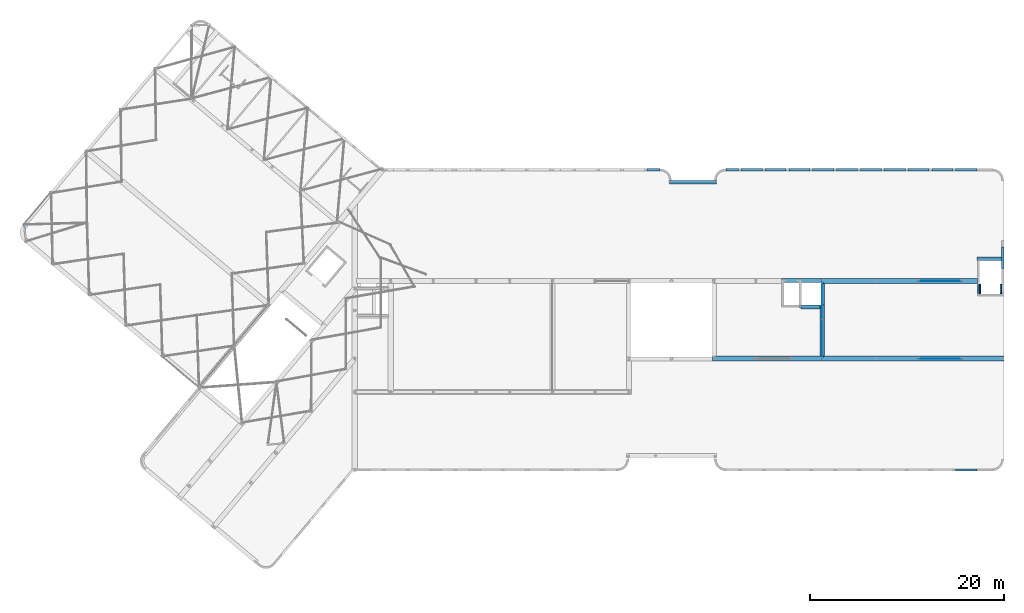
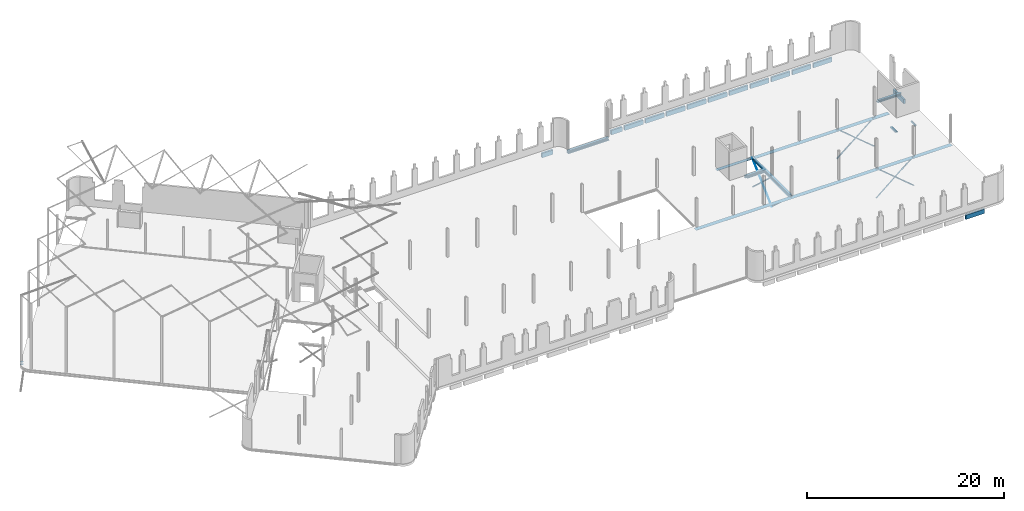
# One storey, part 19 of 25: 37 beams.
"""IFC2X3 building model written with IfcOpenShell, lengths in millimetres."""

from ifc_helpers import new_model, entity, si_unit, converted_unit, derived_unit, direction, frame, frame_2d, origin, origin_2d_with_axis, place, context, subcontext, project, spatial, polyline, circle_curve, parameter, trimmed, segment, composite_curve, rectangle, i_section, outline, extrude, material, type_object, element, save


model = new_model("IFC2X3")

# Units and contexts
model_context = context("Model", 3, precision=0.01, world=origin(), true_north=direction((6.123031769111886e-17, 1.0)))
body_context = subcontext(model_context, "Body", "Model", "MODEL_VIEW")
ifc_project = project(units=[si_unit("LENGTHUNIT", "METRE", prefix="MILLI"), si_unit("AREAUNIT", "SQUARE_METRE"), si_unit("VOLUMEUNIT", "CUBIC_METRE"), derived_unit("MASSDENSITYUNIT", [(si_unit("MASSUNIT", "GRAM", prefix="KILO"), 1), (si_unit("LENGTHUNIT", "METRE"), -3)]), si_unit("MASSUNIT", "GRAM", prefix="KILO"), converted_unit("PLANEANGLEUNIT", "DEGREE", entity("IfcPlaneAngleMeasure", 0.017453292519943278), si_unit("PLANEANGLEUNIT", "RADIAN"), dimensions=[0, 0, 0, 0, 0, 0, 0])], contexts=[model_context])

# Site, building, storey
site_placement = place(None, origin())
site = spatial("IfcSite", under=ifc_project, at=site_placement, Name="Default", CompositionType="ELEMENT")
building_placement = place(site_placement, origin())
building = spatial("IfcBuilding", under=site, at=building_placement, Name="AT constructie", CompositionType="ELEMENT")
storey_placement = place(building_placement, frame((0.0, 0.0, 3864.0)))
storey = spatial("IfcBuildingStorey", under=building, at=storey_placement, Name="01 eerste verdieping", CompositionType="ELEMENT", Elevation=3864.0)

# Beams
ifc_material_1 = material(Name="f2_beton_prefab_gen")
beam_type_1 = type_object("IfcBeamType", Name="balk vierkant_gen_214x544 pbl", PredefinedType="NOTDEFINED")
for number, where in (
    (1, (83681.87463111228, 42871.04350852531, 0.0)),
    (2, (81221.87463111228, 42871.04350852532, 0.0)),
    (3, (86141.8746311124, 42871.0435085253, 0.0)),
):
    element("IfcBeam", number, at=place(storey_placement, frame(where)), inside=storey, type_object=beam_type_1, material=ifc_material_1, Name="NLRS_28_SF_LIB_balk vierkant prefab_gen_AT:balk vierkant_gen_214x544 pbl", ObjectType="NLRS_28_SF_LIB_balk vierkant prefab_gen_AT:balk vierkant_gen_214x544 pbl", context=body_context, shape_type="SweptSolid", body=[
        extrude(rectangle(XDim=544.0000000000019, YDim=213.99999999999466, at=frame_2d((0.0, 4.334310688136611e-12), x_axis=(1.0, 0.0))), frame((-190.0, -107.0, -642.0), z_axis=(1.0, 0.0, 0.0), x_axis=(0.0, 0.0, -1.0)), (0.0, 0.0, 1.0), 2190.0000000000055),
    ])
beam_1_placement = place(storey_placement, frame((88601.87463111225, 42871.04350852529, 0.0)))
element("IfcBeam", 4, at=beam_1_placement, inside=storey, type_object=beam_type_1, material=ifc_material_1, Name="NLRS_28_SF_LIB_balk vierkant prefab_gen_AT:balk vierkant_gen_214x544 pbl", ObjectType="NLRS_28_SF_LIB_balk vierkant prefab_gen_AT:balk vierkant_gen_214x544 pbl", context=body_context, shape_type="SweptSolid", body=[
    extrude(rectangle(XDim=544.0000000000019, YDim=213.99999999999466, at=frame_2d((0.0, -4.334310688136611e-12), x_axis=(1.0, 0.0))), frame((-190.0, -107.0, -642.0), z_axis=(1.0, 0.0, 0.0), x_axis=(0.0, 0.0, -1.0)), (0.0, 0.0, 1.0), 2190.0000000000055),
])
for number, where in (
    (5, (91061.87463111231, 42871.04350852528, 0.0)),
    (6, (93521.87463111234, 42871.043508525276, 0.0)),
    (7, (95981.87463111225, 42871.04350852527, 0.0)),
):
    element("IfcBeam", number, at=place(storey_placement, frame(where)), inside=storey, type_object=beam_type_1, material=ifc_material_1, Name="NLRS_28_SF_LIB_balk vierkant prefab_gen_AT:balk vierkant_gen_214x544 pbl", ObjectType="NLRS_28_SF_LIB_balk vierkant prefab_gen_AT:balk vierkant_gen_214x544 pbl", context=body_context, shape_type="SweptSolid", body=[
        extrude(rectangle(XDim=544.0000000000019, YDim=213.99999999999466, at=frame_2d((0.0, 4.334310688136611e-12), x_axis=(1.0, 0.0))), frame((-190.0, -107.0, -642.0), z_axis=(1.0, 0.0, 0.0), x_axis=(0.0, 0.0, -1.0)), (0.0, 0.0, 1.0), 2190.0000000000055),
    ])
beam_2_placement = place(storey_placement, frame((98441.87463111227, 42871.043508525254, 0.0)))
element("IfcBeam", 8, at=beam_2_placement, inside=storey, type_object=beam_type_1, material=ifc_material_1, Name="NLRS_28_SF_LIB_balk vierkant prefab_gen_AT:balk vierkant_gen_214x544 pbl", ObjectType="NLRS_28_SF_LIB_balk vierkant prefab_gen_AT:balk vierkant_gen_214x544 pbl", context=body_context, shape_type="SweptSolid", body=[
    extrude(rectangle(XDim=544.0000000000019, YDim=213.99999999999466, at=frame_2d((0.0, -4.334310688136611e-12), x_axis=(1.0, 0.0))), frame((-190.0, -107.0, -642.0), z_axis=(1.0, 0.0, 0.0), x_axis=(0.0, 0.0, -1.0)), (0.0, 0.0, 1.0), 2190.0000000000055),
])
for number, where in (
    (9, (100901.8746311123, 42871.04350852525, 0.0)),
    (10, (103361.87463111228, 42871.04350852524, 0.0)),
):
    element("IfcBeam", number, at=place(storey_placement, frame(where)), inside=storey, type_object=beam_type_1, material=ifc_material_1, Name="NLRS_28_SF_LIB_balk vierkant prefab_gen_AT:balk vierkant_gen_214x544 pbl", ObjectType="NLRS_28_SF_LIB_balk vierkant prefab_gen_AT:balk vierkant_gen_214x544 pbl", context=body_context, shape_type="SweptSolid", body=[
        extrude(rectangle(XDim=544.0000000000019, YDim=213.99999999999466, at=frame_2d((0.0, 4.334310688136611e-12), x_axis=(1.0, 0.0))), frame((-190.0, -107.0, -642.0), z_axis=(1.0, 0.0, 0.0), x_axis=(0.0, 0.0, -1.0)), (0.0, 0.0, 1.0), 2190.0000000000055),
    ])
beam_3_placement = place(storey_placement, frame((79641.87463111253, 42871.04350852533, 0.0)))
element("IfcBeam", 11, at=beam_3_placement, inside=storey, type_object=beam_type_1, material=ifc_material_1, Name="NLRS_28_SF_LIB_balk vierkant prefab_gen_AT:balk vierkant_gen_214x544 pbl", ObjectType="NLRS_28_SF_LIB_balk vierkant prefab_gen_AT:balk vierkant_gen_214x544 pbl", context=body_context, shape_type="SweptSolid", body=[
    extrude(rectangle(XDim=544.0000000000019, YDim=213.99999999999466, at=frame_2d((0.0, -4.334310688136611e-12), x_axis=(1.0, 0.0))), frame((-190.0, -107.0, -642.0), z_axis=(1.0, 0.0, 0.0), x_axis=(0.0, 0.0, -1.0)), (0.0, 0.0, 1.0), 1309.999999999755),
])
beam_4_placement = place(storey_placement, frame((103361.87463111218, 11671.043508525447, 0.0)))
element("IfcBeam", 12, at=beam_4_placement, inside=storey, type_object=beam_type_1, material=ifc_material_1, Name="NLRS_28_SF_LIB_balk vierkant prefab_gen_AT:balk vierkant_gen_214x544 pbl", ObjectType="NLRS_28_SF_LIB_balk vierkant prefab_gen_AT:balk vierkant_gen_214x544 pbl", context=body_context, shape_type="SweptSolid", body=[
    extrude(rectangle(XDim=544.0000000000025, YDim=213.999999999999, at=frame_2d((0.0, -1.0871303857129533e-12), x_axis=(1.0, 0.0))), frame((-190.0, 107.0, -642.0), z_axis=(1.0, 0.0, 0.0), x_axis=(0.0, 0.0, -1.0)), (0.0, 0.0, 1.0), 2190.000000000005),
])
beam_5_placement = place(storey_placement, frame((108146.87463111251, 34576.043508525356, 0.0), z_axis=(0.0, 0.0, 1.0), x_axis=(0.0, -1.0, 0.0)))
element("IfcBeam", 13, at=beam_5_placement, inside=storey, type_object=beam_type_1, material=ifc_material_1, Name="NLRS_28_SF_LIB_balk vierkant prefab_gen_AT:balk vierkant_gen_214x544 pbl", ObjectType="NLRS_28_SF_LIB_balk vierkant prefab_gen_AT:balk vierkant_gen_214x544 pbl", context=body_context, shape_type="SweptSolid", body=[
    extrude(rectangle(XDim=544.0000000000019, YDim=213.999999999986, at=origin_2d_with_axis()), frame((-190.0, -107.0, -642.0), z_axis=(1.0, 0.0, 0.0), x_axis=(0.0, 0.0, -1.0)), (0.0, 0.0, 1.0), 2190.0000000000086),
])
beam_6_placement = place(storey_placement, frame((71521.87463111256, 42871.043508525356, 0.0)))
element("IfcBeam", 14, at=beam_6_placement, inside=storey, type_object=beam_type_1, material=ifc_material_1, Name="NLRS_28_SF_LIB_balk vierkant prefab_gen_AT:balk vierkant_gen_214x544 pbl", ObjectType="NLRS_28_SF_LIB_balk vierkant prefab_gen_AT:balk vierkant_gen_214x544 pbl", context=body_context, shape_type="SweptSolid", body=[
    extrude(rectangle(XDim=544.0000000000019, YDim=213.99999999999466, at=frame_2d((0.0, 4.334310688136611e-12), x_axis=(1.0, 0.0))), frame((-190.0, -107.0, -642.0), z_axis=(1.0, 0.0, 0.0), x_axis=(0.0, 0.0, -1.0)), (0.0, 0.0, 1.0), 1309.999999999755),
])
ifc_material_2 = material(Name="h2_staal_S355")
beam_type_2 = type_object("IfcBeamType", Name="balk strip liggend_gen_500x15", PredefinedType="NOTDEFINED")
beam_7_placement = place(storey_placement, frame((78096.87463111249, 23271.043508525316, 0.0)))
element("IfcBeam", 15, at=beam_7_placement, inside=storey, type_object=beam_type_2, material=ifc_material_2, Name="NLRS_28_SF_LIB_balk strip_gen_AT:balk strip liggend_gen_500x15", ObjectType="NLRS_28_SF_LIB_balk strip_gen_AT:balk strip liggend_gen_500x15", context=body_context, shape_type="SweptSolid", body=[
    extrude(rectangle(XDim=14.999999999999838, YDim=499.999999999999, at=origin_2d_with_axis()), frame((6.095935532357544e-07, 0.0, -377.50000000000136), z_axis=(1.0, 0.0, 0.0), x_axis=(0.0, 0.0, -1.0)), (0.0, 0.0, 1.0), 30071.999999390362),
])
beam_8_placement = place(storey_placement, frame((89257.3746311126, 31271.043508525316, 0.0)))
element("IfcBeam", 16, at=beam_8_placement, inside=storey, type_object=beam_type_2, material=ifc_material_2, Name="NLRS_28_SF_LIB_balk strip_gen_AT:balk strip liggend_gen_500x15", ObjectType="NLRS_28_SF_LIB_balk strip_gen_AT:balk strip liggend_gen_500x15", context=body_context, shape_type="SweptSolid", body=[
    extrude(rectangle(XDim=14.999999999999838, YDim=499.999999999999, at=frame_2d((0.0, 4.334310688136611e-12), x_axis=(1.0, 0.0))), frame((6.095935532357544e-07, 0.0, -377.50000000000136), z_axis=(1.0, 0.0, 0.0), x_axis=(0.0, 0.0, -1.0)), (0.0, 0.0, 1.0), 16161.500003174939),
])
beam_9_placement = place(storey_placement, frame((89407.37463111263, 28828.043508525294, 0.0), z_axis=(0.0, 0.0, 1.0), x_axis=(0.0, -1.0, 0.0)))
element("IfcBeam", 17, at=beam_9_placement, inside=storey, type_object=beam_type_2, material=ifc_material_2, Name="NLRS_28_SF_LIB_balk strip_gen_AT:balk strip liggend_gen_500x15", ObjectType="NLRS_28_SF_LIB_balk strip_gen_AT:balk strip liggend_gen_500x15", context=body_context, shape_type="SweptSolid", body=[
    extrude(rectangle(XDim=14.999999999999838, YDim=499.9999999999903, at=frame_2d((0.0, 8.668621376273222e-12), x_axis=(1.0, 0.0))), frame((6.095978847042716e-07, 0.0, -377.50000000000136), z_axis=(1.0, 0.0, 0.0), x_axis=(0.0, 0.0, -1.0)), (0.0, 0.0, 1.0), 5306.999999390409),
])
beam_type_3 = type_object("IfcBeamType", Name="balk HE_gen_HEB260", PredefinedType="NOTDEFINED")
beam_10_placement = place(storey_placement, frame((105395.37463489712, 33501.043508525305, 0.0)))
element("IfcBeam", 18, at=beam_10_placement, inside=storey, type_object=beam_type_3, material=ifc_material_2, Name="NLRS_28_SF_LIB_balk HEB_gen_AT:balk HE_gen_HEB260", ObjectType="NLRS_28_SF_LIB_balk HEB_gen_AT:balk HE_gen_HEB260", context=body_context, shape_type="SweptSolid", body=[
    extrude(i_section(OverallWidth=260.00000000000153, OverallDepth=259.9999999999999, WebThickness=9.999999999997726, FlangeThickness=17.49999999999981, FilletRadius=23.99999999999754, at=frame_2d((2.7000623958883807e-13, 8.668621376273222e-12), x_axis=(0.0, 1.0))), frame((0.0, 0.0, -240.0), z_axis=(1.0, 0.0, 0.0), x_axis=(0.0, 0.0, -1.0)), (0.0, 0.0, 1.0), 2751.4999962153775),
])
beam_11_placement = place(storey_placement, frame((78473.37462790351, 41541.04350852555, 0.0), z_axis=(0.0, 0.0, 1.0), x_axis=(-1.0, 0.0, 0.0)))
element("IfcBeam", 19, at=beam_11_placement, inside=storey, type_object=beam_type_3, material=ifc_material_2, Name="NLRS_28_SF_LIB_balk HEB_gen_AT:balk HE_gen_HEB260", ObjectType="NLRS_28_SF_LIB_balk HEB_gen_AT:balk HE_gen_HEB260", context=body_context, shape_type="SweptSolid", body=[
    extrude(i_section(OverallWidth=260.00000000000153, OverallDepth=259.9999999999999, WebThickness=9.999999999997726, FlangeThickness=17.49999999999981, FilletRadius=24.000000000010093, at=frame_2d((2.7000623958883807e-13, 4.320099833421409e-12), x_axis=(0.0, 1.0))), frame((0.0, 0.0, -240.0), z_axis=(1.0, 0.0, 0.0), x_axis=(0.0, 0.0, -1.0)), (0.0, 0.0, 1.0), 4852.9999967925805),
])
beam_12_placement = place(storey_placement, frame((89407.37463111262, 31141.04350852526, 0.0), z_axis=(0.0, 0.0, 1.0), x_axis=(0.0, -1.0, 0.0)))
element("IfcBeam", 20, at=beam_12_placement, inside=storey, type_object=beam_type_3, material=ifc_material_2, Name="NLRS_28_SF_LIB_balk HEB_gen_AT:balk HE_gen_HEB260", ObjectType="NLRS_28_SF_LIB_balk HEB_gen_AT:balk HE_gen_HEB260", context=body_context, shape_type="SweptSolid", body=[
    extrude(i_section(OverallWidth=259.9999999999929, OverallDepth=259.9999999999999, WebThickness=9.999999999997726, FlangeThickness=17.49999999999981, FilletRadius=23.999999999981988, at=frame_2d((2.7000623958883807e-13, -1.7323031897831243e-11), x_axis=(0.0, 1.0))), frame((0.0, 0.0, -240.0), z_axis=(1.0, 0.0, 0.0), x_axis=(0.0, 0.0, -1.0)), (0.0, 0.0, 1.0), 7740.0),
])
beam_13_placement = place(storey_placement, frame((87030.87463111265, 28678.0435085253, 0.0)))
element("IfcBeam", 21, at=beam_13_placement, inside=storey, type_object=beam_type_3, material=ifc_material_2, Name="NLRS_28_SF_LIB_balk HEB_gen_AT:balk HE_gen_HEB260", ObjectType="NLRS_28_SF_LIB_balk HEB_gen_AT:balk HE_gen_HEB260", context=body_context, shape_type="SweptSolid", body=[
    extrude(i_section(OverallWidth=259.9999999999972, OverallDepth=259.9999999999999, WebThickness=9.999999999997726, FlangeThickness=17.49999999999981, FilletRadius=23.99999999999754, at=frame_2d((2.7000623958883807e-13, 4.320099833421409e-12), x_axis=(0.0, 1.0))), frame((0.0, 0.0, -240.0), z_axis=(1.0, 0.0, 0.0), x_axis=(0.0, 0.0, -1.0)), (0.0, 0.0, 1.0), 2246.4999999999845),
])
beam_type_4 = type_object("IfcBeamType", Name="balk strip liggend_gen_420x15", PredefinedType="NOTDEFINED")
beam_14_placement = place(storey_placement, frame((87187.87463111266, 28618.0435085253, 0.0)))
element("IfcBeam", 22, at=beam_14_placement, inside=storey, type_object=beam_type_4, material=ifc_material_2, Name="NLRS_28_SF_LIB_balk strip_gen_AT:balk strip liggend_gen_420x15", ObjectType="NLRS_28_SF_LIB_balk strip_gen_AT:balk strip liggend_gen_420x15", context=body_context, shape_type="SweptSolid", body=[
    extrude(rectangle(XDim=14.999999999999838, YDim=419.99999999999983, at=origin_2d_with_axis()), frame((0.0, 0.0, -377.50000000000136), z_axis=(1.0, 0.0, 0.0), x_axis=(0.0, 0.0, -1.0)), (0.0, 0.0, 1.0), 1969.4999999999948),
])
beam_type_5 = type_object("IfcBeamType", Name="balk strip liggend_gen_400x15", PredefinedType="NOTDEFINED")
beam_15_placement = place(storey_placement, frame((105385.37463489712, 33571.043508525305, 0.0)))
element("IfcBeam", 23, at=beam_15_placement, inside=storey, type_object=beam_type_5, material=ifc_material_2, Name="NLRS_28_SF_LIB_balk strip_gen_AT:balk strip liggend_gen_400x15", ObjectType="NLRS_28_SF_LIB_balk strip_gen_AT:balk strip liggend_gen_400x15", context=body_context, shape_type="SweptSolid", body=[
    extrude(rectangle(XDim=14.999999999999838, YDim=400.0, at=frame_2d((0.0, 2.1742607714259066e-12), x_axis=(1.0, 0.0))), frame((0.0, 0.0, -377.50000000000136), z_axis=(1.0, 0.0, 0.0), x_axis=(0.0, 0.0, -1.0)), (0.0, 0.0, 1.0), 2547.499996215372),
])
beam_16_placement = place(storey_placement, frame((78473.37463291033, 41471.04350852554, 0.0), z_axis=(0.0, 0.0, 1.0), x_axis=(-1.0, 0.0, 0.0)))
element("IfcBeam", 24, at=beam_16_placement, inside=storey, type_object=beam_type_5, material=ifc_material_2, Name="NLRS_28_SF_LIB_balk strip_gen_AT:balk strip liggend_gen_400x15", ObjectType="NLRS_28_SF_LIB_balk strip_gen_AT:balk strip liggend_gen_400x15", context=body_context, shape_type="SweptSolid", body=[
    extrude(rectangle(XDim=14.999999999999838, YDim=400.0000000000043, at=frame_2d((0.0, -4.334310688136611e-12), x_axis=(1.0, 0.0))), frame((6.095970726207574e-07, 0.0, -377.50000000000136), z_axis=(1.0, 0.0, 0.0), x_axis=(0.0, 0.0, -1.0)), (0.0, 0.0, 1.0), 4853.00000058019),
])
beam_17_placement = place(storey_placement, frame((85216.87463111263, 31321.04350852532, 0.0)))
element("IfcBeam", 25, at=beam_17_placement, inside=storey, type_object=beam_type_5, material=ifc_material_2, Name="NLRS_28_SF_LIB_balk strip_gen_AT:balk strip liggend_gen_400x15", ObjectType="NLRS_28_SF_LIB_balk strip_gen_AT:balk strip liggend_gen_400x15", context=body_context, shape_type="SweptSolid", body=[
    extrude(rectangle(XDim=14.999999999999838, YDim=400.0, at=frame_2d((0.0, -2.1742607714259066e-12), x_axis=(1.0, 0.0))), frame((0.0, 0.0, -377.50000000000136), z_axis=(1.0, 0.0, 0.0), x_axis=(0.0, 0.0, -1.0)), (0.0, 0.0, 1.0), 4040.4999999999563),
])
beam_18_placement = place(storey_placement, frame((89457.3746311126, 31021.04350852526, 0.0), z_axis=(0.0, 0.0, 1.0), x_axis=(0.0, -1.0, 0.0)))
element("IfcBeam", 26, at=beam_18_placement, inside=storey, type_object=beam_type_5, material=ifc_material_2, Name="NLRS_28_SF_LIB_balk strip_gen_AT:balk strip liggend_gen_400x15", ObjectType="NLRS_28_SF_LIB_balk strip_gen_AT:balk strip liggend_gen_400x15", context=body_context, shape_type="SweptSolid", body=[
    extrude(rectangle(XDim=14.999999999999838, YDim=400.000000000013, at=frame_2d((0.0, -8.668621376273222e-12), x_axis=(1.0, 0.0))), frame((0.0, 0.0, -377.50000000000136), z_axis=(1.0, 0.0, 0.0), x_axis=(0.0, 0.0, -1.0)), (0.0, 0.0, 1.0), 2192.999999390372),
])
beam_type_6 = type_object("IfcBeamType", Name="balk HE_gen_HEB320", PredefinedType="NOTDEFINED")
beam_19_placement = place(storey_placement, frame((6863.4141985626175, 37044.73519215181, 0.0), z_axis=(0.0, 0.0, 1.0), x_axis=(0.6427876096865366, 0.7660444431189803, 0.0)))
element("IfcBeam", 27, at=beam_19_placement, inside=storey, type_object=beam_type_6, material=ifc_material_2, Name="NLRS_28_SF_LIB_balk HEB_gen_AT:balk HE_gen_HEB320", ObjectType="NLRS_28_SF_LIB_balk HEB_gen_AT:balk HE_gen_HEB320", context=body_context, shape_type="SweptSolid", body=[
    extrude(i_section(OverallWidth=300.00000000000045, OverallDepth=319.99999999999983, WebThickness=11.499999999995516, FlangeThickness=20.500000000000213, FilletRadius=26.99999999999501, at=frame_2d((-5.400124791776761e-13, -3.879563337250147e-12), x_axis=(0.0, 1.0))), frame((0.0, -150.0, -431.0), z_axis=(1.0, 0.0, 0.0), x_axis=(0.0, 0.0, -1.0)), (0.0, 0.0, 1.0), 254.99999999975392),
])
beam_type_7 = type_object("IfcBeamType", Name="balk strip liggend_gen_120x10", PredefinedType="NOTDEFINED")
beam_20_placement = place(storey_placement, frame((89412.37463111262, 27227.01383872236, -199.5587482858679), z_axis=(0.0, 0.6764579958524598, 0.73648121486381), x_axis=(0.0, 0.73648121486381, -0.6764579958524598)))
element("IfcBeam", 28, at=beam_20_placement, inside=storey, type_object=beam_type_7, material=ifc_material_2, Name="NLRS_28_SF_LIB_balk strip_gen_AT:balk strip liggend_gen_120x10", ObjectType="NLRS_28_SF_LIB_balk strip_gen_AT:balk strip liggend_gen_120x10", context=body_context, shape_type="SweptSolid", body=[
    extrude(rectangle(XDim=120.0000000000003, YDim=9.999999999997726, at=frame_2d((-8.380851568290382e-12, 0.0), x_axis=(1.0, 0.0))), frame((0.0, 5.0, 0.0), z_axis=(1.0, 0.0, 0.0), x_axis=(0.0, 0.0, -1.0)), (0.0, 0.0, 1.0), 5431.23153621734),
])
beam_21_placement = place(storey_placement, frame((89412.37463111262, 23271.043508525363, -240.0), z_axis=(0.0, 0.6764579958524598, 0.73648121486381), x_axis=(0.0, 0.73648121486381, -0.6764579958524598)))
element("IfcBeam", 29, at=beam_21_placement, inside=storey, type_object=beam_type_7, material=ifc_material_2, Name="NLRS_28_SF_LIB_balk strip_gen_AT:balk strip liggend_gen_120x10", ObjectType="NLRS_28_SF_LIB_balk strip_gen_AT:balk strip liggend_gen_120x10", context=body_context, shape_type="SweptSolid", body=[
    extrude(rectangle(XDim=119.99999999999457, YDim=9.999999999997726, at=frame_2d((-6.039613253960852e-13, 0.0), x_axis=(1.0, 0.0))), frame((0.0, 5.0, 0.0), z_axis=(1.0, 0.0, 0.0), x_axis=(0.0, 0.0, -1.0)), (0.0, 0.0, 1.0), 5371.447703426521),
])
beam_22_placement = place(storey_placement, frame((99344.25892525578, 31281.04350854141, -237.8140225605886), z_axis=(0.6412610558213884, 0.0, 0.767322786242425), x_axis=(0.767322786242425, 0.0, -0.6412610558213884)))
element("IfcBeam", 30, at=beam_22_placement, inside=storey, type_object=beam_type_7, material=ifc_material_2, Name="NLRS_28_SF_LIB_balk strip_gen_AT:balk strip liggend_gen_120x10", ObjectType="NLRS_28_SF_LIB_balk strip_gen_AT:balk strip liggend_gen_120x10", context=body_context, shape_type="SweptSolid", body=[
    extrude(rectangle(XDim=120.00000000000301, YDim=9.999999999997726, at=frame_2d((4.156675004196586e-13, 4.331646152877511e-12), x_axis=(1.0, 0.0))), frame((0.0, -5.0, 0.0), z_axis=(1.0, 0.0, 0.0), x_axis=(0.0, 0.0, -1.0)), (0.0, 0.0, 1.0), 5737.631912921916),
])
beam_23_placement = place(storey_placement, frame((103785.33097703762, 31281.043508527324, -207.88895115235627), z_axis=(-0.6409390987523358, 0.0, 0.7675917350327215), x_axis=(-0.7675917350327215, 0.0, -0.6409390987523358)))
element("IfcBeam", 31, at=beam_23_placement, inside=storey, type_object=beam_type_7, material=ifc_material_2, Name="NLRS_28_SF_LIB_balk strip_gen_AT:balk strip liggend_gen_120x10", ObjectType="NLRS_28_SF_LIB_balk strip_gen_AT:balk strip liggend_gen_120x10", context=body_context, shape_type="SweptSolid", body=[
    extrude(rectangle(XDim=120.00000000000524, YDim=10.000000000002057, at=frame_2d((2.0250467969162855e-13, 2.1658230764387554e-12), x_axis=(1.0, 0.0))), frame((0.0, 5.0, 0.0), z_axis=(1.0, 0.0, 0.0), x_axis=(0.0, 0.0, -1.0)), (0.0, 0.0, 1.0), 5778.892383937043),
])
beam_24_placement = place(storey_placement, frame((89412.37463111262, 31271.043508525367, -240.0), z_axis=(0.0, -0.6764579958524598, 0.73648121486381), x_axis=(0.0, -0.73648121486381, -0.6764579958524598)))
element("IfcBeam", 32, at=beam_24_placement, inside=storey, type_object=beam_type_7, material=ifc_material_2, Name="NLRS_28_SF_LIB_balk strip_gen_AT:balk strip liggend_gen_120x10", ObjectType="NLRS_28_SF_LIB_balk strip_gen_AT:balk strip liggend_gen_120x10", context=body_context, shape_type="SweptSolid", body=[
    extrude(rectangle(XDim=119.99999999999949, YDim=9.999999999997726, at=frame_2d((3.8617997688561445e-12, -8.662848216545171e-12), x_axis=(1.0, 0.0))), frame((0.0, -5.0, 0.0), z_axis=(1.0, 0.0, 0.0), x_axis=(0.0, 0.0, -1.0)), (0.0, 0.0, 1.0), 5431.231536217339),
])
beam_25_placement = place(storey_placement, frame((103746.87463111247, 23266.04350852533, -240.0), z_axis=(-0.6409390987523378, 0.0, 0.7675917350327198), x_axis=(-0.7675917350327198, 0.0, -0.6409390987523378)))
element("IfcBeam", 33, at=beam_25_placement, inside=storey, type_object=beam_type_7, material=ifc_material_2, Name="NLRS_28_SF_LIB_balk strip_gen_AT:balk strip liggend_gen_120x10", ObjectType="NLRS_28_SF_LIB_balk strip_gen_AT:balk strip liggend_gen_120x10", context=body_context, shape_type="SweptSolid", body=[
    extrude(rectangle(XDim=120.00000000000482, YDim=9.999999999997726, at=frame_2d((2.1316282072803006e-13, 0.0), x_axis=(1.0, 0.0))), frame((0.0, -5.0, 0.0), z_axis=(1.0, 0.0, 0.0), x_axis=(0.0, 0.0, -1.0)), (0.0, 0.0, 1.0), 5732.21388296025),
])
beam_26_placement = place(storey_placement, frame((99346.87463111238, 23266.043508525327, -240.0), z_axis=(0.6412610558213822, 0.0, 0.7673227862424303), x_axis=(0.7673227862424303, 0.0, -0.6412610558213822)))
element("IfcBeam", 34, at=beam_26_placement, inside=storey, type_object=beam_type_7, material=ifc_material_2, Name="NLRS_28_SF_LIB_balk strip_gen_AT:balk strip liggend_gen_120x10", ObjectType="NLRS_28_SF_LIB_balk strip_gen_AT:balk strip liggend_gen_120x10", context=body_context, shape_type="SweptSolid", body=[
    extrude(rectangle(XDim=120.00000000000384, YDim=10.000000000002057, at=frame_2d((2.0961010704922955e-13, -2.1658230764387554e-12), x_axis=(1.0, 0.0))), frame((0.0, 5.0, 0.0), z_axis=(1.0, 0.0, 0.0), x_axis=(0.0, 0.0, -1.0)), (0.0, 0.0, 1.0), 5734.223040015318),
])
ifc_material_3 = material(Name="h2_staal_S235")
beam_type_8 = type_object("IfcBeamType", Name="balk_gen_L150x150x12_tbv bordes", PredefinedType="NOTDEFINED")
beam_27_placement = place(storey_placement, frame((105632.87463489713, 29971.043508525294, 0.0), z_axis=(0.0, 0.0, 1.0), x_axis=(0.0, 1.0, 0.0)))
element("IfcBeam", 35, at=beam_27_placement, inside=storey, type_object=beam_type_8, material=ifc_material_3, Name="NLRS_28_SF_LIB_balk hoeklijn_gen_AT:balk_gen_L150x150x12_tbv bordes", ObjectType="NLRS_28_SF_LIB_balk hoeklijn_gen_AT:balk_gen_L150x150x12_tbv bordes", context=body_context, shape_type="SweptSolid", body=[
    extrude(outline(composite_curve([segment(polyline([(51.33333333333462, -94.66666666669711), (55.33333333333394, -94.66666666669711)]), True, "CONTINUOUS"), segment(polyline([(55.33333333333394, -94.66666666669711), (55.33333333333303, 55.33333333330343)]), True, "CONTINUOUS"), segment(polyline([(55.333333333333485, 55.33333333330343), (-94.66666666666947, 55.33333333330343)]), True, "CONTINUOUS"), segment(polyline([(-94.66666666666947, 55.33333333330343), (-94.66666666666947, 51.33333333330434)]), True, "CONTINUOUS"), segment(trimmed(circle_curve(frame_2d((-86.66666666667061, 51.33333333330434), x_axis=(-1.0, 0.0)), 7.999999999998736), [parameter(0.0)], [parameter(90.00000000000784)], True, "PARAMETER"), True, "CONTINUOUS"), segment(polyline([(-86.66666666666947, 43.33333333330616), (27.333333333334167, 43.33333333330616)]), True, "CONTINUOUS"), segment(trimmed(circle_curve(frame_2d((27.333333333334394, 27.333333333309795), x_axis=(0.0, 1.0)), 15.999999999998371), [parameter(269.99999999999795)], [parameter(0.0)], True, "PARAMETER"), False, "CONTINUOUS"), segment(polyline([(43.333333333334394, 27.333333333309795), (43.33333333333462, -86.66666666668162)]), True, "CONTINUOUS"), segment(trimmed(circle_curve(frame_2d((51.333333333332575, -86.66666666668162), x_axis=(-1.0, 0.0)), 7.9999999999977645), [parameter(0.0)], [parameter(90.0000000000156)], True, "PARAMETER"), True, "CONTINUOUS")], self_intersect=False)), frame((0.0, -55.33333333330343, -1996.666666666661), z_axis=(1.0, 0.0, 0.0), x_axis=(0.0, 0.0, -1.0)), (0.0, 0.0, 1.0), 981.4579107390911),
])
beam_28_placement = place(storey_placement, frame((107932.87463489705, 29971.043508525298, 0.0), z_axis=(0.0, 0.0, 1.0), x_axis=(0.0, 1.0, 0.0)))
element("IfcBeam", 36, at=beam_28_placement, inside=storey, type_object=beam_type_8, material=ifc_material_3, Name="NLRS_28_SF_LIB_balk hoeklijn_gen_AT:balk_gen_L150x150x12_tbv bordes", ObjectType="NLRS_28_SF_LIB_balk hoeklijn_gen_AT:balk_gen_L150x150x12_tbv bordes", context=body_context, shape_type="SweptSolid", body=[
    extrude(outline(composite_curve([segment(polyline([(-94.66666666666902, -55.33333333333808), (55.33333333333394, -55.33333333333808)]), True, "CONTINUOUS"), segment(polyline([(55.333333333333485, -55.33333333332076), (55.333333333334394, 94.66666666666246)]), True, "CONTINUOUS"), segment(polyline([(55.333333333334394, 94.66666666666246), (51.33333333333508, 94.66666666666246)]), True, "CONTINUOUS"), segment(trimmed(circle_curve(frame_2d((51.33333333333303, 86.66666666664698), x_axis=(0.0, 1.0)), 7.9999999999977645), [parameter(0.0)], [parameter(90.0000000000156)], True, "PARAMETER"), True, "CONTINUOUS"), segment(polyline([(43.33333333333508, 86.66666666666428), (43.33333333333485, -27.33333333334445)]), True, "CONTINUOUS"), segment(trimmed(circle_curve(frame_2d((27.33333333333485, -27.33333333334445), x_axis=(1.0, 0.0)), 15.999999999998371), [parameter(269.99999999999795)], [parameter(0.0)], True, "PARAMETER"), False, "CONTINUOUS"), segment(polyline([(27.333333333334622, -43.33333333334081), (-86.66666666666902, -43.33333333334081)]), True, "CONTINUOUS"), segment(trimmed(circle_curve(frame_2d((-86.66666666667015, -51.33333333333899), x_axis=(0.0, 1.0)), 7.999999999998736), [parameter(0.0)], [parameter(90.00000000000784)], True, "PARAMETER"), True, "CONTINUOUS"), segment(polyline([(-94.66666666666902, -51.33333333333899), (-94.66666666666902, -55.33333333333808)]), True, "CONTINUOUS")], self_intersect=False)), frame((0.0, 55.33333333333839, -1996.6666666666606), z_axis=(1.0, 0.0, 0.0), x_axis=(0.0, 0.0, -1.0)), (0.0, 0.0, 1.0), 981.457910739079),
])
beam_type_9 = type_object("IfcBeamType", Name="balk vierkant_gen_214x200", PredefinedType="NOTDEFINED")
beam_29_placement = place(storey_placement, frame((105632.87463489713, 29971.043508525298, 0.0), z_axis=(0.0, 0.0, 1.0), x_axis=(0.0, 1.0, 0.0)))
element("IfcBeam", 37, at=beam_29_placement, inside=storey, type_object=beam_type_9, material=ifc_material_1, Name="NLRS_28_SF_LIB_balk vierkant prefab_gen_AT:balk vierkant_gen_214x200", ObjectType="NLRS_28_SF_LIB_balk vierkant prefab_gen_AT:balk vierkant_gen_214x200", context=body_context, shape_type="SweptSolid", body=[
    extrude(rectangle(XDim=200.0000000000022, YDim=213.99999999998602, at=frame_2d((0.0, 1.7330137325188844e-11), x_axis=(1.0, 0.0))), frame((10.0, 107.0, -1940.0), z_axis=(1.0, 0.0, 0.0), x_axis=(0.0, 0.0, -1.0)), (0.0, 0.0, 1.0), 961.457910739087),
])

save(model, "model.ifc")
